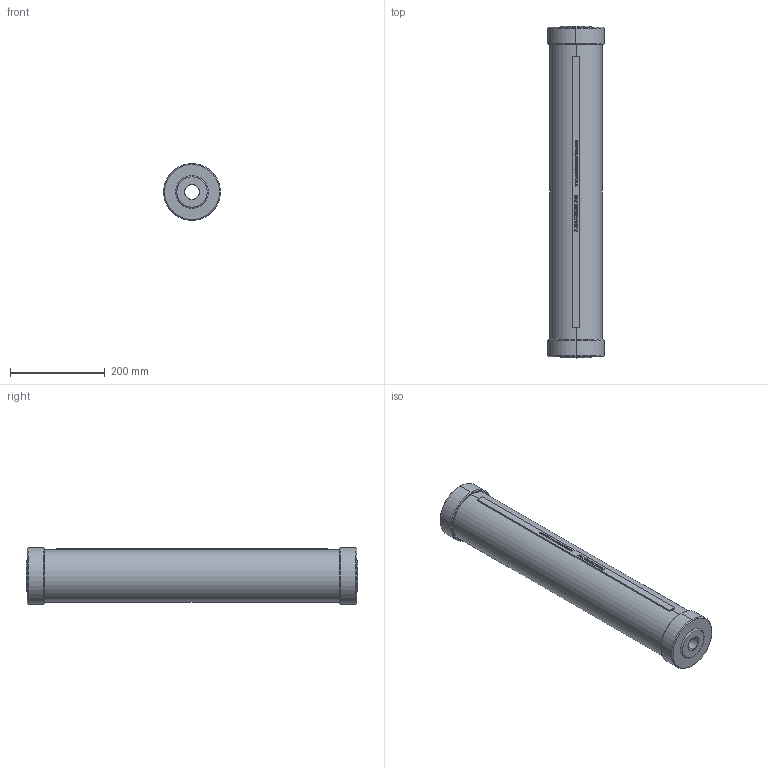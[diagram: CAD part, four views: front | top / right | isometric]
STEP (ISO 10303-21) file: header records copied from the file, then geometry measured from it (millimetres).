
FILE_DESCRIPTION (( 'STEP AP214' ), '1' );
FILE_NAME ('5.0LTR-C-11-00.STEP', '2025-06-23T10:25:23', ( '' ), ( '' ), 'SwSTEP 2.0', 'SolidWorks 2024', '' );
FILE_SCHEMA (( 'AUTOMOTIVE_DESIGN' ));
Length unit declared in the file: millimetre
Products named in the file (1): 5.0LTR-C-11-00
Bounding box: 120 x 701 x 120 mm (x, y, z)
Volume: 975391.5 mm3; surface area: 554135 mm2
Topology: 4 solids, 4 shells, 561 faces, 1460 edges, 968 vertices
Faces by surface type: plane 302, bspline 223, cylinder 16, cone 16, torus 4
Entity records: 34213 total; most frequent: CARTESIAN_POINT 15685, ORIENTED_EDGE 2920, DIRECTION 1752, EDGE_CURVE 1460, VERTEX_POINT 968, LINE 954, VECTOR 954, EDGE_LOOP 628
